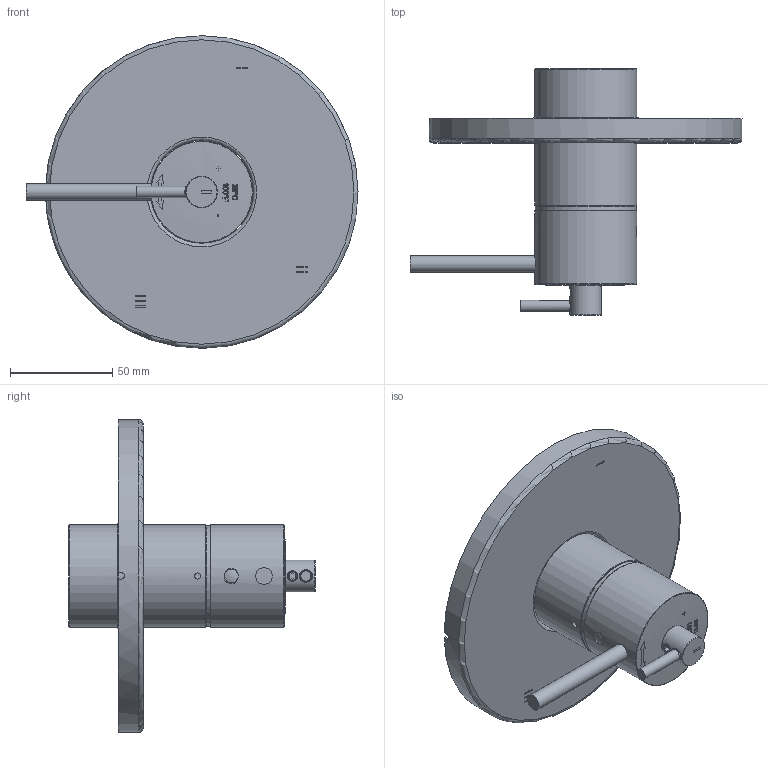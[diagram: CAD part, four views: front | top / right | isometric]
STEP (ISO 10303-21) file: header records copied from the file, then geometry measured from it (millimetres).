
FILE_DESCRIPTION(/* description */ (''),/* implementation_level */ '2;1');
FILE_NAME(/* name */ 'X:\Collections\Moderne\VS\VSTM47\TVSTM47 3D.stp',/* time_stamp */ '2017-05-15T16:20:01-04:00',/* author */ ('simono'),/* organization */ (''),/* preprocessor_version */ 'ST-DEVELOPER v15.6',/* originating_system */ 'Autodesk Inventor 2015',/* authorisation */ '');
FILE_SCHEMA (('CONFIG_CONTROL_DESIGN','AUTOMOTIVE_DESIGN { 1 0 10303 214 3 1 1 }'));
Length unit declared in the file: millimetre
Products named in the file (12): 053-004; 052-071; 050-645; 002-629-ver1; 002-929; 152-050; 003-421; 1999; 002-077; 1992; 1629; TVSTM47
Assembly tree (14 placements, depth 4):
  TVSTM47
    053-004
    052-071
    050-645
    1629
      1999
        002-629-ver1
        002-929
        152-050  x2
        003-421  x2
      1992
        002-077
        152-050
Bounding box: 162.5 x 120.5 x 153 mm (x, y, z)
Volume: 78256.8 mm3; surface area: 96060.7 mm2
Topology: 11 solids, 11 shells, 453 faces, 1098 edges, 706 vertices
Faces by surface type: plane 216, bspline 114, cylinder 66, cone 29, torus 26, sphere 2
Full cylindrical faces by diameter (mm): 3 x1, 4.134 x1, 4.5 x1, 4.917 x1, 5 x2, 5.5 x1, 6 x1, 6.7 x2, 6.9 x1, 8 x1, 8.1 x1, 11.2 x1, 13.2 x1, 15.5 x1, 28.2 x1, 43.2 x1, 45 x1, 46.6 x1, 47 x1, 49.5 x1, 50 x2, 50.5 x1, 52.5 x1, 151 x1, 153 x1
Entity records: 17035 total; most frequent: CARTESIAN_POINT 8757, ORIENTED_EDGE 1768, DIRECTION 1324, EDGE_CURVE 884, VERTEX_POINT 600, EDGE_LOOP 504, AXIS2_PLACEMENT_3D 463, LINE 398
